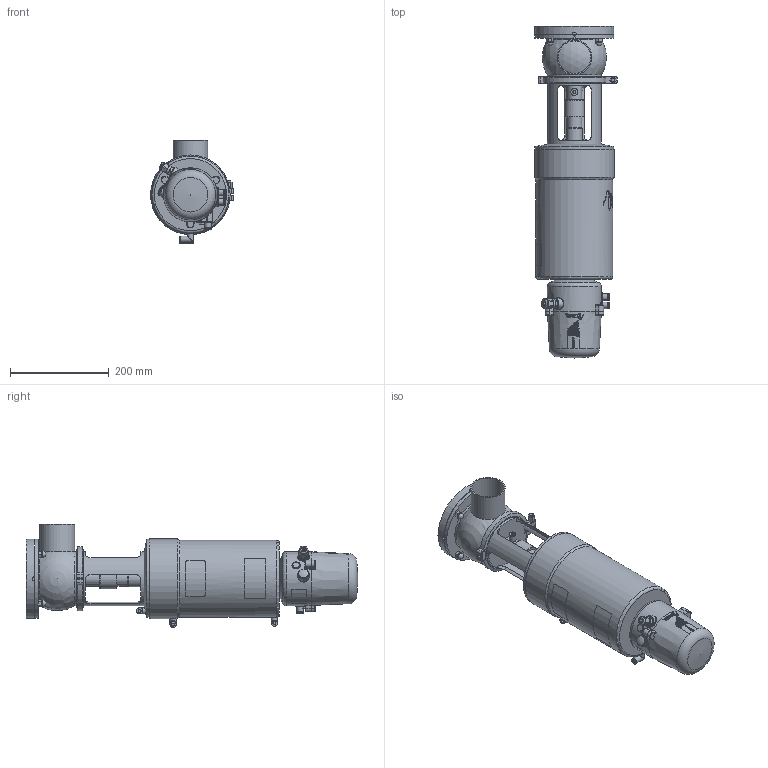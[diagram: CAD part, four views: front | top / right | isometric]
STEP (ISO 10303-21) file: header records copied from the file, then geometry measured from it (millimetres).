
FILE_DESCRIPTION (( 'STEP AP214' ), '1' );
FILE_NAME ('INNOVA T L W DIN 065 WITH FLANGE & C-TOP S_10.252.16.0007.STEP', '2024-08-20T12:55:05', ( '' ), ( '' ), 'SwSTEP 2.0', 'SolidWorks 2023', '' );
FILE_SCHEMA (( 'AUTOMOTIVE_DESIGN' ));
Length unit declared in the file: millimetre
Products named in the file (7): INNOVA T L W DIN 065 WITH FLANGE & C-TOP S_10.252.16.0007; 10.250.15.0002_Type T T2; 10.240.15.0006_DIN 065; 10.248.15.0003_DIN 065 _ OD 2½"; 10.426.15.0001_C-TOP S - 3 EV; 10.252.15.0001_DIN 065; 10.240.15.0001_DN 065
Assembly tree (6 placements, depth 2):
  INNOVA T L W DIN 065 WITH FLANGE & C-TOP S_10.252.16.0007
    10.240.15.0006_DIN 065
    10.248.15.0003_DIN 065 _ OD 2½"
    10.252.15.0001_DIN 065
    10.250.15.0002_Type T T2
    10.240.15.0001_DN 065
    10.426.15.0001_C-TOP S - 3 EV
Bounding box: 167.5 x 671.33 x 209 mm (x, y, z)
Volume: 8496542.8 mm3; surface area: 546052.4 mm2
Topology: 6 solids, 6 shells, 1200 faces, 2890 edges, 1924 vertices
Faces by surface type: plane 419, cylinder 380, cone 196, bspline 162, torus 33, sphere 10
Full cylindrical faces by diameter (mm): 0.371 x17, 0.512 x16, 0.658 x16, 0.795 x16, 0.94 x15, 1.098 x15, 1.241 x13, 1.382 x13, 1.523 x11, 1.669 x10, 2.201 x1, 4.2 x2, 5 x1, 5.5 x2, 6 x5, 6.15 x3, 8 x3, 10 x1, 10.5 x3, 11 x4, 12 x1, 12.5 x13, 13 x6, 13.5 x2, 14 x2, 17 x3, 20 x2, 22 x2, 30.5 x2, 32 x1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
Entity records: 61636 total; most frequent: CARTESIAN_POINT 29356, ORIENTED_EDGE 4884, DIRECTION 4017, EDGE_CURVE 2442, VERTEX_POINT 1738, EDGE_LOOP 1694, AXIS2_PLACEMENT_3D 1625, FACE_OUTER_BOUND 1431
